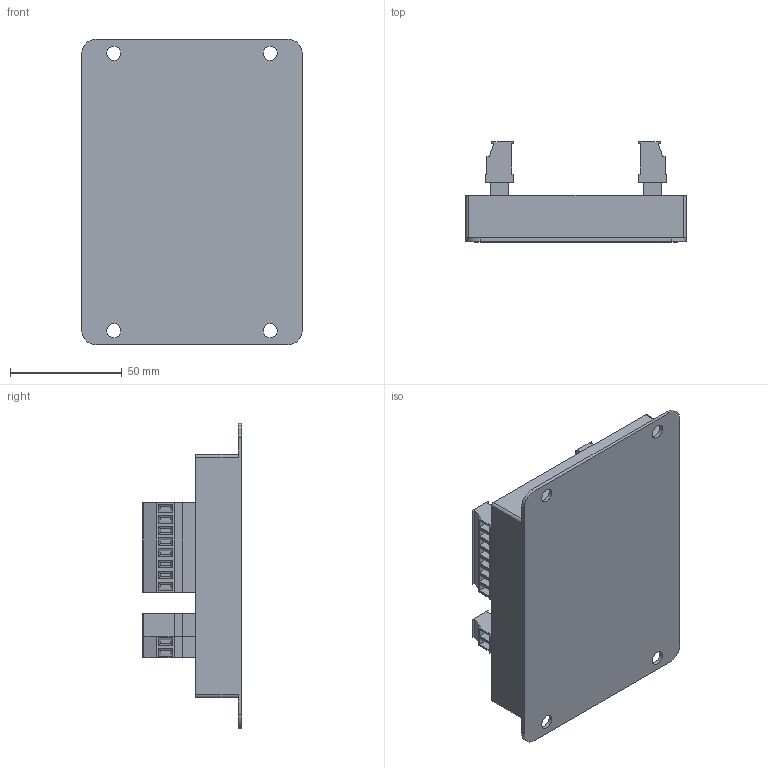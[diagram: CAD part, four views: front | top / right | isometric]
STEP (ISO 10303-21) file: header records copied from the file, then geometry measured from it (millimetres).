
FILE_DESCRIPTION((''),'2;1');
FILE_NAME('S:\Projects\Hydraulics\Dual_Linear_Solenoid_Driver\Mechanical\DSDA-SMB-SC-01 2A Screw Terminals.stp','2014-08-13T13:49:23',('tfisher'),(''),'Autodesk Inventor 2012','Autodesk Inventor 2012','');
FILE_SCHEMA(('AUTOMOTIVE_DESIGN { 1 0 10303 214 1 1 1 1 }'));
Length unit declared in the file: inch
Products named in the file (1): DSDA-SMB-SC-01 2A Screw Terminals
Bounding box: 98.42 x 44.5 x 136.53 mm (x, y, z)
Volume: 183472.2 mm3; surface area: 80618.5 mm2
Topology: 19 solids, 22 shells, 751 faces, 1848 edges, 1168 vertices
Faces by surface type: plane 703, cylinder 48
Full cylindrical faces by diameter (mm): 3.175 x22, 4.75 x10, 6.35 x4
Entity records: 21596 total; most frequent: CARTESIAN_POINT 3688, ORIENTED_EDGE 3580, DIRECTION 3456, EDGE_CURVE 1790, VECTOR 1628, LINE 1628, VERTEX_POINT 1146, AXIS2_PLACEMENT_3D 914
